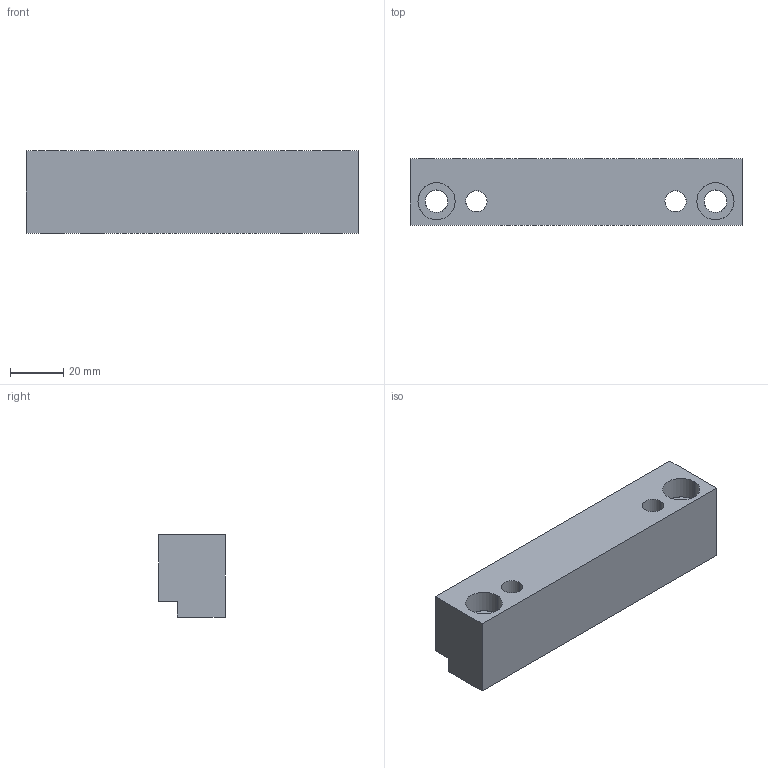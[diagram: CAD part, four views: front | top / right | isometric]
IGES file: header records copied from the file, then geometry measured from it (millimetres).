
Start section: START RECORD GO HERE.
Global section: file name: G40631125.igs; native system: DASSAULT SYSTEMES CATIA V5 R20 - www.3ds.com; preprocessor: CATIA Version 5 Release 20 ; author: r.borello; organization: CFTORINO; date: 20190624.150751; units: millimetre
Bounding box: 125 x 25 x 31 mm (x, y, z)
Surface area: 21833.9 mm2 (no closed solid volume)
Topology: 0 solids, 0 shells, 372 faces, 1570 edges, 1392 vertices
Faces by surface type: revolution 324, plane 48
